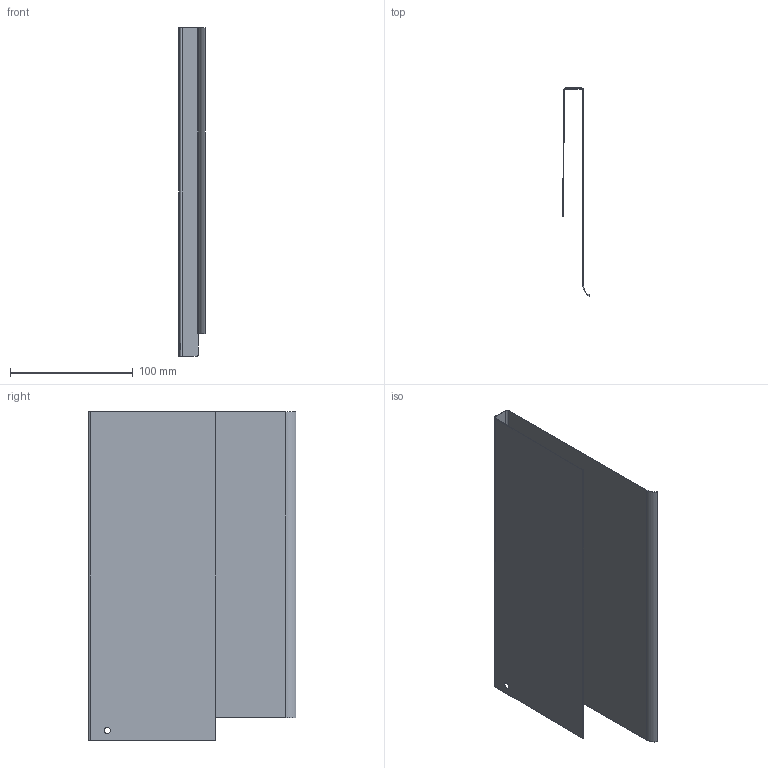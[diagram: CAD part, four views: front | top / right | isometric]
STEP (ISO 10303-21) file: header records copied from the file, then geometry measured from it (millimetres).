
FILE_DESCRIPTION (( 'STEP AP203' ), '1' );
FILE_NAME ('Nova Pro Duowing HRW H186 Deluxe links_NL270.step', '2014-02-14T12:22:40', ( 'test' ), ( '' ), 'SwSTEP 2.0', 'SolidWorks 2013', '' );
FILE_SCHEMA (( 'CONFIG_CONTROL_DESIGN' ));
Length unit declared in the file: millimetre
Products named in the file (1): Nova Pro Duowing HRW H186 Deluxe links_NL270
Bounding box: 21.82 x 169 x 267.5 mm (x, y, z)
Volume: 36965.6 mm3; surface area: 148426 mm2
Topology: 1 solids, 1 shells, 29 faces, 66 edges, 39 vertices
Faces by surface type: plane 20, cylinder 9
Entity records: 876 total; most frequent: CARTESIAN_POINT 147, DIRECTION 137, ORIENTED_EDGE 132, EDGE_CURVE 66, VECTOR 47, LINE 47, AXIS2_PLACEMENT_3D 45, VERTEX_POINT 39
